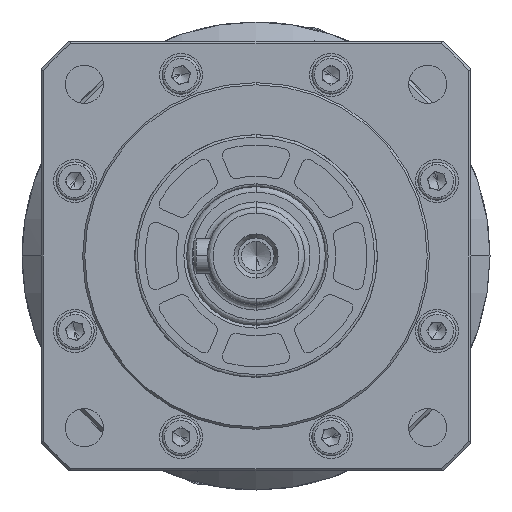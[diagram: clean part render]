
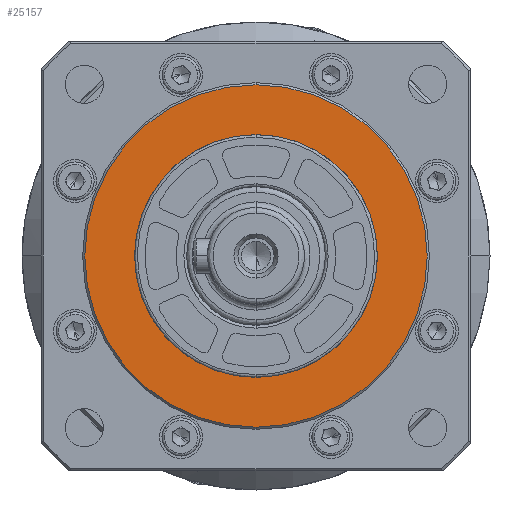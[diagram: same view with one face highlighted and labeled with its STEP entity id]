
A CAD part, left-side view. The second image highlights one B-rep face of the part: STEP entity #25157.
In plain terms, the highlighted planar face has unit normal (-1, 0, 0).
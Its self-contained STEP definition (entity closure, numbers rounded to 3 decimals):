
#74 = AXIS2_PLACEMENT_3D ( 'NONE', #31641, #12888, #34722 ) ;
#371 = CARTESIAN_POINT ( 'NONE',  ( 0., 0., 17.5 ) ) ;
#393 = DIRECTION ( 'NONE',  ( -1., 0., 0. ) ) ;
#1921 = VERTEX_POINT ( 'NONE', #371 ) ;
#4338 = DIRECTION ( 'NONE',  ( 0., 0., -1. ) ) ;
#4411 = CARTESIAN_POINT ( 'NONE',  ( 0., 0., 0. ) ) ;
#6201 = AXIS2_PLACEMENT_3D ( 'NONE', #9606, #15693, #9342 ) ;
#9342 = DIRECTION ( 'NONE',  ( 0., 0., 1. ) ) ;
#9606 = CARTESIAN_POINT ( 'NONE',  ( 0., 0., 0. ) ) ;
#10103 = EDGE_CURVE ( 'NONE', #14194, #1921, #24139, .T. ) ;
#10939 = DIRECTION ( 'NONE',  ( 1., 0., 0. ) ) ;
#11519 = AXIS2_PLACEMENT_3D ( 'NONE', #35816, #10939, #4338 ) ;
#11761 = VERTEX_POINT ( 'NONE', #36944 ) ;
#12442 = CARTESIAN_POINT ( 'NONE',  ( 0., 0., -17.5 ) ) ;
#12888 = DIRECTION ( 'NONE',  ( 1., 0., 0. ) ) ;
#12949 = DIRECTION ( 'NONE',  ( 0., 0., 1. ) ) ;
#14083 = DIRECTION ( 'NONE',  ( 1., 0., 0. ) ) ;
#14194 = VERTEX_POINT ( 'NONE', #12442 ) ;
#14918 = EDGE_CURVE ( 'NONE', #1921, #14194, #32012, .T. ) ;
#15693 = DIRECTION ( 'NONE',  ( -1., 0., 0. ) ) ;
#15888 = CIRCLE ( 'NONE', #28460, 24.7 ) ;
#17935 = EDGE_LOOP ( 'NONE', ( #38580, #33330 ) ) ;
#18344 = ORIENTED_EDGE ( 'NONE', *, *, #39370, .F. ) ;
#20050 = PLANE ( 'NONE',  #11519 ) ;
#20690 = CIRCLE ( 'NONE', #74, 24.7 ) ;
#22696 = CARTESIAN_POINT ( 'NONE',  ( 0., 0., 0. ) ) ;
#23752 = CARTESIAN_POINT ( 'NONE',  ( 0., 0., -24.7 ) ) ;
#24139 = CIRCLE ( 'NONE', #6201, 17.5 ) ;
#24326 = ORIENTED_EDGE ( 'NONE', *, *, #33372, .F. ) ;
#25157 = ADVANCED_FACE ( 'NONE', ( #38209, #28990 ), #20050, .F. ) ;
#28460 = AXIS2_PLACEMENT_3D ( 'NONE', #4411, #14083, #32533 ) ;
#28990 = FACE_OUTER_BOUND ( 'NONE', #34177, .T. ) ;
#30718 = VERTEX_POINT ( 'NONE', #23752 ) ;
#31641 = CARTESIAN_POINT ( 'NONE',  ( 0., 0., 0. ) ) ;
#32012 = CIRCLE ( 'NONE', #39731, 17.5 ) ;
#32533 = DIRECTION ( 'NONE',  ( 0., 0., -1. ) ) ;
#33330 = ORIENTED_EDGE ( 'NONE', *, *, #10103, .F. ) ;
#33372 = EDGE_CURVE ( 'NONE', #11761, #30718, #15888, .T. ) ;
#34177 = EDGE_LOOP ( 'NONE', ( #18344, #24326 ) ) ;
#34722 = DIRECTION ( 'NONE',  ( 0., 0., -1. ) ) ;
#35816 = CARTESIAN_POINT ( 'NONE',  ( 0., 17.5, 0. ) ) ;
#36944 = CARTESIAN_POINT ( 'NONE',  ( 0., 0., 24.7 ) ) ;
#38209 = FACE_BOUND ( 'NONE', #17935, .T. ) ;
#38580 = ORIENTED_EDGE ( 'NONE', *, *, #14918, .F. ) ;
#39370 = EDGE_CURVE ( 'NONE', #30718, #11761, #20690, .T. ) ;
#39731 = AXIS2_PLACEMENT_3D ( 'NONE', #22696, #393, #12949 ) ;
